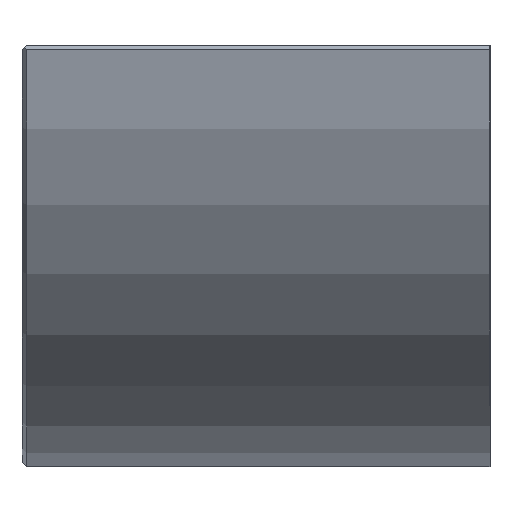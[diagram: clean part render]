
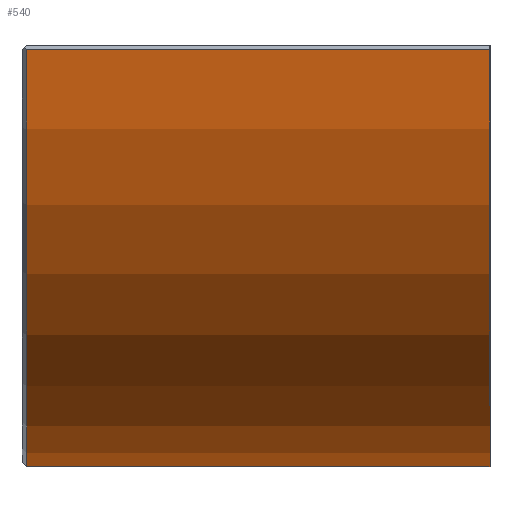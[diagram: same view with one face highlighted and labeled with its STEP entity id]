
A CAD part, left-side view. The second image highlights one B-rep face of the part: STEP entity #540.
In plain terms, the highlighted cylindrical face has radius 77.75 mm (diameter 155.5 mm), a partial arc.
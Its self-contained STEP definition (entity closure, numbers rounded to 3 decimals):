
#23=CYLINDRICAL_SURFACE('',#591,77.75);
#42=LINE('',#840,#86);
#54=LINE('',#875,#98);
#86=VECTOR('',#662,10.);
#98=VECTOR('',#684,10.);
#151=FACE_OUTER_BOUND('',#182,.T.);
#182=EDGE_LOOP('',(#420,#421,#422,#423));
#204=CIRCLE('',#577,77.75);
#209=CIRCLE('',#592,77.75);
#235=VERTEX_POINT('',#790);
#236=VERTEX_POINT('',#794);
#247=VERTEX_POINT('',#838);
#259=VERTEX_POINT('',#874);
#287=EDGE_CURVE('',#235,#236,#204,.T.);
#304=EDGE_CURVE('',#247,#235,#42,.T.);
#319=EDGE_CURVE('',#236,#259,#54,.T.);
#321=EDGE_CURVE('',#247,#259,#209,.F.);
#420=ORIENTED_EDGE('',*,*,#287,.F.);
#421=ORIENTED_EDGE('',*,*,#304,.F.);
#422=ORIENTED_EDGE('',*,*,#321,.T.);
#423=ORIENTED_EDGE('',*,*,#319,.F.);
#540=ADVANCED_FACE('',(#151),#23,.T.);
#577=AXIS2_PLACEMENT_3D('',#795,#636,#637);
#591=AXIS2_PLACEMENT_3D('',#877,#686,#687);
#592=AXIS2_PLACEMENT_3D('',#878,#688,#689);
#636=DIRECTION('center_axis',(0.,1.,0.));
#637=DIRECTION('ref_axis',(-0.999,0.,-0.045));
#662=DIRECTION('',(0.,1.,0.));
#684=DIRECTION('',(0.,-1.,0.));
#686=DIRECTION('center_axis',(0.,-1.,0.));
#687=DIRECTION('ref_axis',(-0.999,0.,-0.045));
#688=DIRECTION('center_axis',(0.,-1.,0.));
#689=DIRECTION('ref_axis',(-0.994,0.,-0.109));
#790=CARTESIAN_POINT('',(77.198,78.25,-9.245));
#794=CARTESIAN_POINT('',(-77.198,78.25,-9.245));
#795=CARTESIAN_POINT('Origin',(0.,78.25,0.));
#838=CARTESIAN_POINT('',(77.198,2.5,-9.245));
#840=CARTESIAN_POINT('',(77.198,79.,-9.245));
#874=CARTESIAN_POINT('',(-77.198,2.5,-9.245));
#875=CARTESIAN_POINT('',(-77.198,79.,-9.245));
#877=CARTESIAN_POINT('Origin',(0.,79.,0.));
#878=CARTESIAN_POINT('Origin',(0.,2.5,0.));
